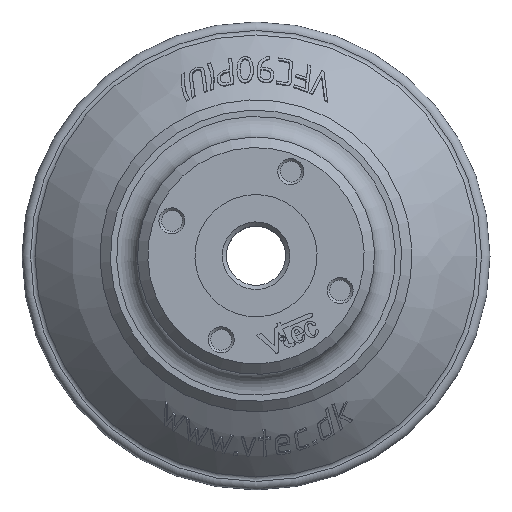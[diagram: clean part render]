
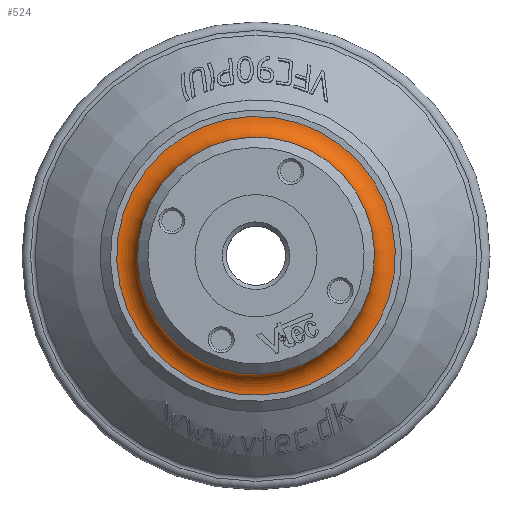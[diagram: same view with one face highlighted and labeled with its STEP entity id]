
A CAD part, top view. The second image highlights one B-rep face of the part: STEP entity #524.
In plain terms, the highlighted toroidal (fillet/blend) face has major radius 26.8 mm and minor radius 4 mm.
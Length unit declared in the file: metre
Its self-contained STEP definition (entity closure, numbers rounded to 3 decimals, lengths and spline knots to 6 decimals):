
#524 = ADVANCED_FACE( '', ( #1373, #1374 ), #1375, .F. );
#1373 = FACE_OUTER_BOUND( '', #8634, .T. );
#1374 = FACE_OUTER_BOUND( '', #8635, .T. );
#1375 = TOROIDAL_SURFACE( '', #8636, 0.0268, 0.004 );
#8634 = EDGE_LOOP( '', ( #10978 ) );
#8635 = EDGE_LOOP( '', ( #10979 ) );
#8636 = AXIS2_PLACEMENT_3D( '', #10980, #10981, #10982 );
#10978 = ORIENTED_EDGE( '', *, *, #12075, .F. );
#10979 = ORIENTED_EDGE( '', *, *, #12076, .T. );
#10980 = CARTESIAN_POINT( '', ( 0., 0., 0.00225 ) );
#10981 = DIRECTION( '', ( 0., 0., 1. ) );
#10982 = DIRECTION( '', ( 1., 0., 0. ) );
#12075 = EDGE_CURVE( '', #13570, #13570, #13571, .T. );
#12076 = EDGE_CURVE( '', #13572, #13572, #13573, .T. );
#13570 = VERTEX_POINT( '', #19315 );
#13571 = CIRCLE( '', #19316, 0.0228 );
#13572 = VERTEX_POINT( '', #19317 );
#13573 = CIRCLE( '', #19318, 0.0268 );
#19315 = CARTESIAN_POINT( '', ( 0.0228, 0., 0.00225 ) );
#19316 = AXIS2_PLACEMENT_3D( '', #20349, #20350, #20351 );
#19317 = CARTESIAN_POINT( '', ( 0.0268, 0., -0.00175 ) );
#19318 = AXIS2_PLACEMENT_3D( '', #20352, #20353, #20354 );
#20349 = CARTESIAN_POINT( '', ( 0., 0., 0.00225 ) );
#20350 = DIRECTION( '', ( 0., 0., 1. ) );
#20351 = DIRECTION( '', ( 1., 0., 0. ) );
#20352 = CARTESIAN_POINT( '', ( 0., 0., -0.00175 ) );
#20353 = DIRECTION( '', ( 0., 0., 1. ) );
#20354 = DIRECTION( '', ( 1., 0., 0. ) );
